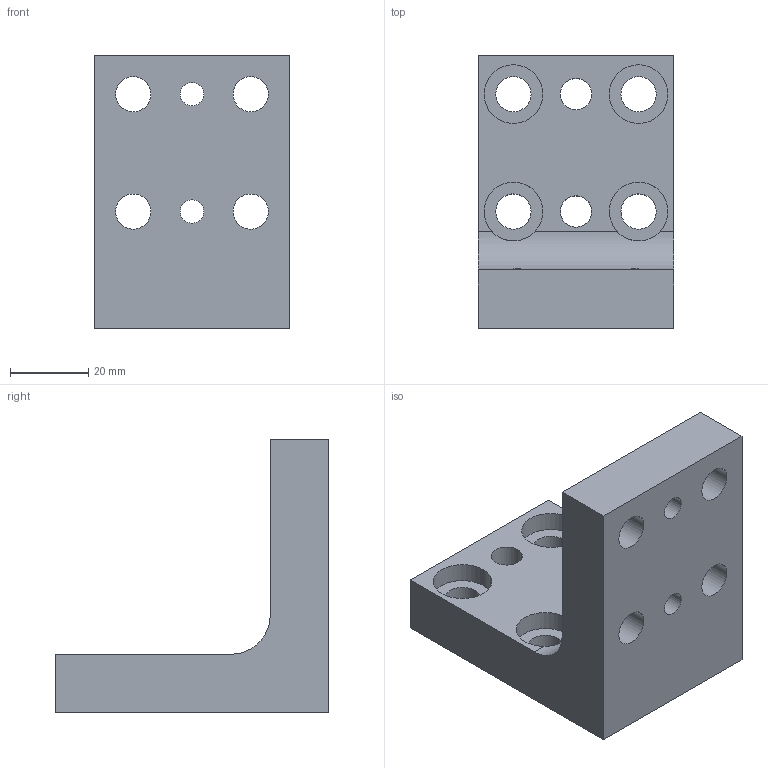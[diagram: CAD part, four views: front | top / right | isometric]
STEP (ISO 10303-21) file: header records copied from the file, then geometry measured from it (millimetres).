
FILE_DESCRIPTION(('STEP AP214'),'1');
FILE_NAME('EGT160_1708220_WINKEL_70X70.CATPart.stp','2015-09-14T13:10:23',('3D-Tool'),(' '),'Spatial InterOp 3D',' ',' ');
FILE_SCHEMA(('automotive_design'));
Length unit declared in the file: millimetre
Products named in the file (1): EGT160_1708220_WINKEL_70X70|EGT160_WINKEL_70X70|Bohrbearbeitung
Bounding box: 50 x 70 x 70 mm (x, y, z)
Volume: 80303.1 mm3; surface area: 21720.4 mm2
Topology: 1 solids, 1 shells, 97 faces, 273 edges, 182 vertices
Faces by surface type: cylinder 81, plane 16
Entity records: 4154 total; most frequent: CARTESIAN_POINT 633, DIRECTION 631, ORIENTED_EDGE 546, EDGE_CURVE 273, AXIS2_PLACEMENT_3D 264, VERTEX_POINT 182, CIRCLE 166, EDGE_LOOP 125
